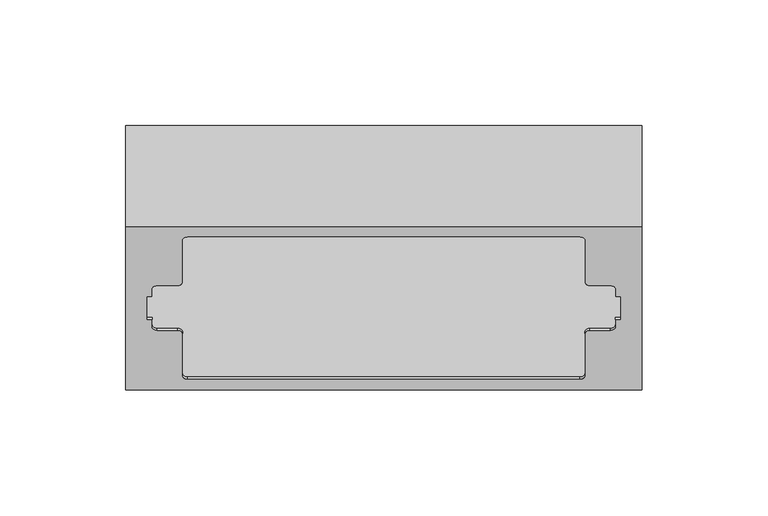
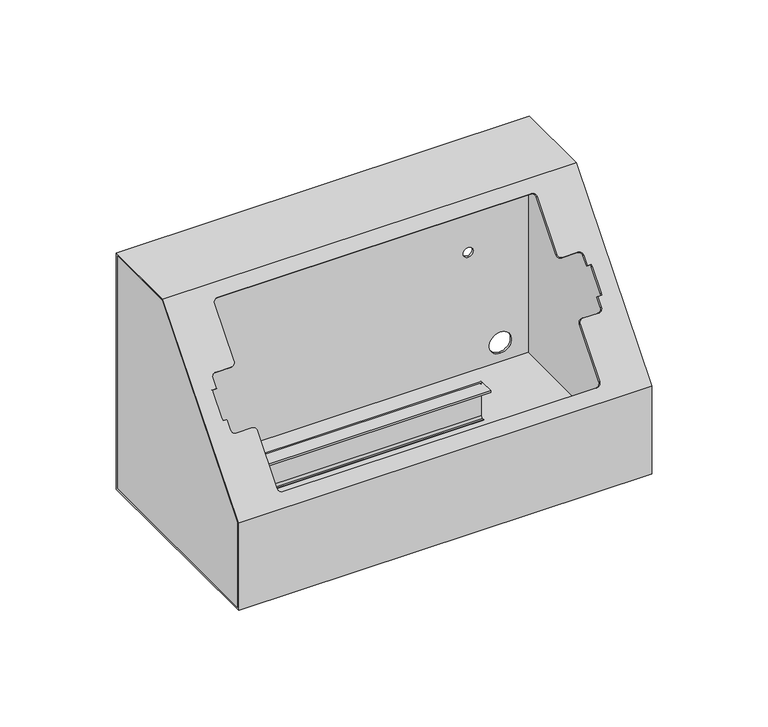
"""IFC4 building model written with IfcOpenShell, lengths in millimetres: proxy geometry, FP_Корпус_Для_Встраивоемой_Панели_R18 : FP_Корпус_Для_Встраивоемой_Панели_R18."""

import ifcopenshell
import ifcopenshell.guid

model = None  # the IFC model being written
_history = None  # IfcOwnerHistory: only IFC2X3 demands one
_inside = {}  # id of a spatial element -> (the spatial element, [elements in it])
_under = {}  # id of a project, library or spatial element -> (it, [spatial elements below it])
_declared = {}  # id of a project -> (the project, [libraries it declares])
_typed = {}  # id of a type object -> (the type object, [elements of that type])
_made_of = {}  # id of a material, layer set ... -> (it, [elements and type objects made of it])


def new_model(schema):
    """Start an empty IFC model of exactly this schema.

    Asked for "IFC4X3", IfcOpenShell would pick the latest addendum, in which some entities
    have other attributes; the version numbers below select the first issue.
    IFC2X3 requires an IfcOwnerHistory on every rooted entity: one is made here for all.
    """
    global model, _history
    if schema == "IFC4X3":
        model = ifcopenshell.file(schema_version=(4, 3, 0, 0))
    else:
        model = ifcopenshell.file(schema=schema)
    _inside.clear()
    _under.clear()
    _declared.clear()
    _typed.clear()
    _made_of.clear()
    _history = None
    if model.schema == "IFC2X3":
        org = make("IfcOrganization", Name="unknown")
        user = make(
            "IfcPersonAndOrganization",
            ThePerson=make("IfcPerson", FamilyName="unknown"),
            TheOrganization=org,
        )
        app = make(
            "IfcApplication",
            ApplicationDeveloper=org,
            Version="unknown",
            ApplicationFullName="unknown",
            ApplicationIdentifier="unknown",
        )
        _history = make(
            "IfcOwnerHistory",
            OwningUser=user,
            OwningApplication=app,
            ChangeAction="ADDED",
            CreationDate=0,
        )
    return model


def make(cls, **values):
    """One entity of the class cls with the attributes given. An attribute that is None is left unset."""
    return model.create_entity(
        cls, **{name: value for name, value in values.items() if value is not None}
    )


def rooted(cls, **values):
    """An entity with a GlobalId (a new one), such as an element, a storey or a relation."""
    return make(cls, GlobalId=ifcopenshell.guid.new(), OwnerHistory=_history, **values)


def si_unit(unit_type, name, prefix=None):
    """IfcSIUnit, for example si_unit("LENGTHUNIT", "METRE", prefix="MILLI")."""
    return make("IfcSIUnit", UnitType=unit_type, Prefix=prefix, Name=name)


def assignment(units):
    """IfcUnitAssignment: the units of a project."""
    return None if units is None else make("IfcUnitAssignment", Units=units)


def point(xyz):
    """IfcCartesianPoint."""
    return None if xyz is None else make("IfcCartesianPoint", Coordinates=xyz)


def direction(xyz):
    """IfcDirection."""
    return None if xyz is None else make("IfcDirection", DirectionRatios=xyz)


def frame(location, z_axis=None, x_axis=None):
    """IfcAxis2Placement3D, a coordinate frame: its origin and axes. An axis left out is left unset."""
    return make(
        "IfcAxis2Placement3D",
        Location=point(location),
        Axis=direction(z_axis),
        RefDirection=direction(x_axis),
    )


def frame_2d(location, x_axis=None):
    """IfcAxis2Placement2D, a coordinate frame in the plane: its origin and x axis."""
    return make(
        "IfcAxis2Placement2D", Location=point(location), RefDirection=direction(x_axis)
    )


def origin():
    """The frame at (0, 0, 0) with its axes left unset."""
    return frame((0.0, 0.0, 0.0))


def place(relative_to, where):
    """IfcLocalPlacement: puts the frame where relative to a parent placement (None: the world)."""
    return make(
        "IfcLocalPlacement", PlacementRelTo=relative_to, RelativePlacement=where
    )


def context(
    kind, dimensions, precision=None, world=None, true_north=None, identifier=None
):
    """IfcGeometricRepresentationContext, for example the 3D "Model" context."""
    return make(
        "IfcGeometricRepresentationContext",
        ContextIdentifier=identifier,
        ContextType=kind,
        CoordinateSpaceDimension=dimensions,
        Precision=precision,
        WorldCoordinateSystem=world,
        TrueNorth=true_north,
    )


def project(units=None, contexts=None):
    """IfcProject with its units and contexts."""
    return rooted(
        "IfcProject",
        Name="project",
        RepresentationContexts=contexts,
        UnitsInContext=assignment(units),
    )


def spatial(cls, under=None, at=None, **own):
    """A site, building, storey or space (cls), placed at a placement, below another one or the project."""
    s = rooted(cls, ObjectPlacement=at, **own)
    if under is not None:
        _under.setdefault(under.id(), (under, []))[1].append(s)
    return s


def polyline(points):
    """IfcPolyline through the points."""
    return make("IfcPolyline", Points=[point(p) for p in points])


def circle_curve(where, radius):
    """IfcCircle in the frame where."""
    return make("IfcCircle", Position=where, Radius=radius)


def ellipse_curve(where, semi_axis1, semi_axis2):
    """IfcEllipse in the frame where."""
    return make(
        "IfcEllipse", Position=where, SemiAxis1=semi_axis1, SemiAxis2=semi_axis2
    )


def trimmed(basis, trim1, trim2, sense, master):
    """IfcTrimmedCurve: the piece of a basis curve between two trims."""
    return make(
        "IfcTrimmedCurve",
        BasisCurve=basis,
        Trim1=trim1,
        Trim2=trim2,
        SenseAgreement=sense,
        MasterRepresentation=master,
    )


def segment(curve, same_sense, transition):
    """IfcCompositeCurveSegment."""
    return make(
        "IfcCompositeCurveSegment",
        Transition=transition,
        SameSense=same_sense,
        ParentCurve=curve,
    )


def composite_curve(segments, self_intersect=None):
    """IfcCompositeCurve: segments joined end to end."""
    return make("IfcCompositeCurve", Segments=segments, SelfIntersect=self_intersect)


def outline(outer, holes=None, kind="AREA"):
    """IfcArbitraryClosedProfileDef: a profile drawn as a closed curve; with holes, ...WithVoids."""
    if holes is None:
        return make("IfcArbitraryClosedProfileDef", ProfileType=kind, OuterCurve=outer)
    return make(
        "IfcArbitraryProfileDefWithVoids",
        ProfileType=kind,
        OuterCurve=outer,
        InnerCurves=holes,
    )


def extrude(swept, where, along, depth):
    """IfcExtrudedAreaSolid: the profile swept, set in the frame where, extruded along a direction by depth."""
    return make(
        "IfcExtrudedAreaSolid",
        SweptArea=swept,
        Position=where,
        ExtrudedDirection=direction(along),
        Depth=depth,
    )


def shape(context_of_items, identifier, shape_type, items):
    """IfcShapeRepresentation: the items that make up one representation, for example the "Body"."""
    return make(
        "IfcShapeRepresentation",
        ContextOfItems=context_of_items,
        RepresentationIdentifier=identifier,
        RepresentationType=shape_type,
        Items=items,
    )


def source(mapping_origin, context_of_items, identifier, shape_type, items):
    """IfcRepresentationMap: a shape defined once, which mapped items show again and again."""
    return make(
        "IfcRepresentationMap",
        MappingOrigin=mapping_origin,
        MappedRepresentation=shape(context_of_items, identifier, shape_type, items),
    )


def transform(
    local_origin,
    x_axis=None,
    y_axis=None,
    z_axis=None,
    scale=None,
    scale2=None,
    scale3=None,
    uniform=True,
):
    """IfcCartesianTransformationOperator3D, or its non-uniform kind. x_axis, y_axis, z_axis: its Axis1, 2, 3."""
    if uniform:
        return make(
            "IfcCartesianTransformationOperator3D",
            Axis1=direction(x_axis),
            Axis2=direction(y_axis),
            LocalOrigin=point(local_origin),
            Scale=scale,
            Axis3=direction(z_axis),
        )
    return make(
        "IfcCartesianTransformationOperator3DnonUniform",
        Axis1=direction(x_axis),
        Axis2=direction(y_axis),
        LocalOrigin=point(local_origin),
        Scale=scale,
        Axis3=direction(z_axis),
        Scale2=scale2,
        Scale3=scale3,
    )


def mapped(mapping_source, mapping_target):
    """IfcMappedItem: shows the shape of a source again, moved by a transform."""
    return make(
        "IfcMappedItem", MappingSource=mapping_source, MappingTarget=mapping_target
    )


def made_of(thing, what):
    """Note that an element or type object is made of a material, layer set ...; save() writes the relation."""
    if what is not None:
        _made_of.setdefault(what.id(), (what, []))[1].append(thing)
    return thing


def element(
    cls,
    number,
    at=None,
    inside=None,
    cuts=None,
    type_object=None,
    material=None,
    context=None,
    identifier="Body",
    shape_type=None,
    held_by="IfcProductDefinitionShape",
    body=None,
    shapes=None,
    **own,
):
    """One element of the class cls, such as IfcWall. Its Tag is "e" and its number.

    at: its placement. inside: the storey or other place that contains it. cuts: it is an
    opening in that element (IfcRelVoidsElement). A single representation is given by context,
    identifier, shape_type and body (its items); several are given by shapes. held_by: the class
    of the entity that holds the representations. save() writes the other relations.
    """
    e = rooted(cls, Tag="e%d" % number, ObjectPlacement=at, **own)
    if body is not None:
        shapes = [shape(context, identifier, shape_type, body)]
    if shapes is not None:
        e.Representation = make(held_by, Representations=shapes)
    if inside is not None:
        _inside.setdefault(inside.id(), (inside, []))[1].append(e)
    if cuts is not None:
        rooted(
            "IfcRelVoidsElement", RelatingBuildingElement=cuts, RelatedOpeningElement=e
        )
    if type_object is not None:
        _typed.setdefault(type_object.id(), (type_object, []))[1].append(e)
    return made_of(e, material)


def aggregate(whole, parts):
    """IfcRelAggregates: a whole, such as a stair, and the parts it consists of."""
    return rooted("IfcRelAggregates", RelatingObject=whole, RelatedObjects=parts)


def save(model, path):
    """Write the relations noted so far, then the file.

    IfcRelAggregates (storeys below a building ...), IfcRelContainedInSpatialStructure (elements
    in a storey), IfcRelDefinesByType, IfcRelAssociatesMaterial and IfcRelDeclares: one each for
    every whole, place, type object, material and project.
    """
    for whole, parts in _under.values():
        aggregate(whole, parts)
    for where, things in _inside.values():
        rooted(
            "IfcRelContainedInSpatialStructure",
            RelatedElements=things,
            RelatingStructure=where,
        )
    for kind, things in _typed.values():
        rooted("IfcRelDefinesByType", RelatedObjects=things, RelatingType=kind)
    for what, things in _made_of.values():
        rooted("IfcRelAssociatesMaterial", RelatedObjects=things, RelatingMaterial=what)
    for by, libraries in _declared.values():
        rooted("IfcRelDeclares", RelatingContext=by, RelatedDefinitions=libraries)
    model.write(path)


def plane_surface(at):
    """IfcPlane: the flat surface through the origin of the frame at, square to its z axis."""
    return make("IfcPlane", Position=at)


def revolved_surface(curve, axis_point, axis_direction):
    """IfcSurfaceOfRevolution: the curve turned about the line through axis_point along axis_direction."""
    return make(
        "IfcSurfaceOfRevolution",
        SweptCurve=make("IfcArbitraryOpenProfileDef", ProfileType="CURVE", Curve=curve),
        AxisPosition=make("IfcAxis1Placement", Location=point(axis_point), Axis=direction(axis_direction)),
    )


def extruded_surface(curve, direction_of_extrusion, depth):
    """IfcSurfaceOfLinearExtrusion: the curve pushed along a direction by depth."""
    return make(
        "IfcSurfaceOfLinearExtrusion",
        SweptCurve=make("IfcArbitraryOpenProfileDef", ProfileType="CURVE", Curve=curve),
        ExtrudedDirection=direction(direction_of_extrusion),
        Depth=depth,
    )


def advanced_brep(points, edges, surfaces, faces):
    """IfcAdvancedBrep: a solid bounded by faces that lie on surfaces and meet in shared edges.

    An edge is (start, end): straight between two places in points (the first is 0);
    or (start, end, curve); or (start, end, curve, False) where it runs against its curve.
    A face is (place in surfaces, loops), or (place, loops, False) where it looks against
    its surface's normal. A loop lists edges by number (the first is 1), with a minus sign
    where the edge is run from its end to its start. The first loop is the outer one.
    """
    corners = [point(p) for p in points]
    vertices = [make("IfcVertexPoint", VertexGeometry=c) for c in corners]
    made = []
    for start, end, *more in edges:
        made.append(
            make(
                "IfcEdgeCurve",
                EdgeStart=vertices[start],
                EdgeEnd=vertices[end],
                EdgeGeometry=more[0] if more else make("IfcPolyline", Points=[corners[start], corners[end]]),
                SameSense=more[1] if len(more) > 1 else True,
            )
        )
    hull = []
    for where, loops, *sense in faces:
        bounds = []
        for j, loop in enumerate(loops):
            ring = [make("IfcOrientedEdge", EdgeElement=made[abs(k) - 1], Orientation=k > 0) for k in loop]
            bounds.append(
                make(
                    "IfcFaceOuterBound" if j == 0 else "IfcFaceBound",
                    Bound=make("IfcEdgeLoop", EdgeList=ring),
                    Orientation=True,
                )
            )
        hull.append(make("IfcAdvancedFace", Bounds=bounds, FaceSurface=surfaces[where], SameSense=sense[0] if sense else True))
    return make("IfcAdvancedBrep", Outer=make("IfcClosedShell", CfsFaces=hull))


def mechanical_equipment_c5705cf6(model_context):
    return source(origin(), model_context, "Body", "SolidModel", [
        extrude(outline(polyline([(-104.0, 45.6379501), (-39.5316251, 123.0), (-1.0, 123.0), (-1.0, 1.0), (-104.0, 1.0), (-104.0, 45.6379501)])), frame((101.5, 0.0, 0.0), z_axis=(1.0, 0.0, 0.0), x_axis=(0.0, 1.0, 0.0)), (0.0, 0.0, 1.0), 1.0),
        extrude(outline(polyline([(-104.0, 45.6379501), (-39.5316251, 123.0), (-1.0, 123.0), (-1.0, 1.0), (-104.0, 1.0), (-104.0, 45.6379501)])), frame((-102.5, 0.0, 0.0), z_axis=(1.0, 0.0, 0.0), x_axis=(0.0, 1.0, 0.0)), (0.0, 0.0, 1.0), 1.0),
        extrude(outline(composite_curve([segment(trimmed(circle_curve(frame_2d((-33.9786589, 18.0213411)), 0.9786589), [point((-33.0, 18.0213411))], [point((-33.9786589, 19.0))], True, "CARTESIAN"), True, "CONTINUOUS"), segment(polyline([(-33.9786589, 19.0), (-41.0, 19.0), (-41.0, 20.0), (-33.9531425, 20.0)]), True, "CONTINUOUS"), segment(trimmed(circle_curve(frame_2d((-33.9531425, 18.0468575)), 1.9531425), [point((-33.9531425, 20.0))], [point((-32.0, 18.0468575))], False, "CARTESIAN"), True, "CONTINUOUS"), segment(polyline([(-32.0, 18.0468575), (-32.0, 2.004496)]), True, "CONTINUOUS"), segment(trimmed(circle_curve(frame_2d((-34.004496, 2.004496)), 2.004496), [point((-32.0, 2.004496))], [point((-34.004496, 0.0))], False, "CARTESIAN"), True, "CONTINUOUS"), segment(polyline([(-34.004496, 0.0), (-35.0, 0.0), (-35.0, 1.0), (-34.0045154, 1.0)]), True, "CONTINUOUS"), segment(trimmed(circle_curve(frame_2d((-34.0045154, 2.0045154)), 1.0045154), [point((-34.0045154, 1.0))], [point((-33.0, 2.0045154))], True, "CARTESIAN"), True, "CONTINUOUS"), segment(polyline([(-33.0, 2.0045154), (-33.0, 18.0213411)]), True, "CONTINUOUS")], self_intersect=False)), frame((-59.5, 0.0, 0.0), z_axis=(1.0, 0.0, 0.0), x_axis=(0.0, 1.0, 0.0)), (0.0, 0.0, 1.0), 119.0),
        extrude(outline(composite_curve([segment(polyline([(-11.0213411, 103.0), (-2.0045154, 103.0)]), True, "CONTINUOUS"), segment(trimmed(circle_curve(frame_2d((-2.0045154, 104.0045154)), 1.0045154), [point((-2.0045154, 103.0))], [point((-1.0, 104.0045154))], True, "CARTESIAN"), True, "CONTINUOUS"), segment(polyline([(-1.0, 104.0045154), (-1.0, 107.4908802), (0.0, 107.4908802), (0.0, 104.004496)]), True, "CONTINUOUS"), segment(trimmed(circle_curve(frame_2d((-2.004496, 104.004496)), 2.004496), [point((0.0, 104.004496))], [point((-2.004496, 102.0))], False, "CARTESIAN"), True, "CONTINUOUS"), segment(polyline([(-2.004496, 102.0), (-11.0468575, 102.0)]), True, "CONTINUOUS"), segment(trimmed(circle_curve(frame_2d((-11.0468575, 103.9531425)), 1.9531425), [point((-11.0468575, 102.0))], [point((-13.0, 103.9531425))], False, "CARTESIAN"), True, "CONTINUOUS"), segment(polyline([(-13.0, 103.9531425), (-13.0, 111.0), (-12.0, 111.0), (-12.0, 103.9786589)]), True, "CONTINUOUS"), segment(trimmed(circle_curve(frame_2d((-11.0213411, 103.9786589)), 0.9786589), [point((-12.0, 103.9786589))], [point((-11.0213411, 103.0))], True, "CARTESIAN"), True, "CONTINUOUS")], self_intersect=False)), frame((-59.5, 0.0, 0.0), z_axis=(1.0, 0.0, 0.0), x_axis=(0.0, 1.0, 0.0)), (0.0, 0.0, 1.0), 119.0),
        advanced_brep(
        [(-102.5, -1.0, 123.0), (102.5, -1.0, 123.0), (102.5, -39.5316251, 123.0), (-102.5, -39.5316251, 123.0), (102.5, 0.0, 124.0), (-102.5, 0.0, 124.0), (-102.5, -40.0, 124.0), (102.5, -40.0, 124.0), (102.5, -104.0, 45.6379501), (-102.5, -104.0, 45.6379501), (78.0, -43.5267841, 118.2058091), (-78.0, -43.5267841, 118.2058091), (-80.0, -44.8071456, 116.6693754), (-80.0, -61.6118893, 96.5036829), (-82.0, -62.8922507, 94.9672492), (-90.0, -62.8922507, 94.9672492), (-92.0, -64.1726121, 93.4308155), (-92.0, -67.2134705, 89.7817854), (-94.0, -67.2134705, 89.7817854), (-94.0, -67.8536512, 89.0135686), (-94.0, -75.5358198, 79.7949663), (-94.0, -76.1760005, 79.0267494), (-92.0, -76.1760005, 79.0267494), (-92.0, -79.2168589, 75.3777194), (-90.0, -80.4972203, 73.8412857), (-82.0, -80.4972203, 73.8412857), (-80.0, -81.7775818, 72.3048519), (-80.0, -98.5823255, 52.1391595), (-78.0, -99.8626869, 50.6027257), (78.0, -99.8626869, 50.6027257), (80.0, -98.5823255, 52.1391595), (80.0, -81.7775818, 72.3048519), (82.0, -80.4972203, 73.8412857), (90.0, -80.4972203, 73.8412857), (92.0, -79.2168589, 75.3777194), (92.0, -76.1760005, 79.0267494), (94.0, -76.1760005, 79.0267494), (94.0, -75.5358198, 79.7949663), (94.0, -67.8536512, 89.0135686), (94.0, -67.2134705, 89.7817854), (92.0, -67.2134705, 89.7817854), (92.0, -64.1726121, 93.4308155), (90.0, -62.8922507, 94.9672492), (82.0, -62.8922507, 94.9672492), (80.0, -61.6118893, 96.5036829), (80.0, -44.8071456, 116.6693754), (-102.5, -105.0, 46.0), (102.5, -105.0, 46.0), (-78.0, -44.2950054, 118.8459935), (78.0, -44.2950054, 118.8459935), (80.0, -45.5753668, 117.3095598), (80.0, -62.3801106, 97.1438673), (82.0, -63.660472, 95.6074336), (90.0, -63.660472, 95.6074336), (92.0, -64.9408334, 94.0709999), (92.0, -67.9816918, 90.4219698), (94.0, -67.9816918, 90.4219698), (94.0, -68.6218725, 89.653753), (94.0, -76.3040411, 80.4351507), (94.0, -76.9442218, 79.6669338), (92.0, -76.9442218, 79.6669338), (92.0, -79.9850802, 76.0179038), (90.0, -81.2654416, 74.4814701), (82.0, -81.2654416, 74.4814701), (80.0, -82.5458031, 72.9450363), (80.0, -99.3505468, 52.7793439), (78.0, -100.6309082, 51.2429101), (-78.0, -100.6309082, 51.2429101), (-80.0, -99.3505468, 52.7793439), (-80.0, -82.5458031, 72.9450363), (-82.0, -81.2654416, 74.4814701), (-90.0, -81.2654416, 74.4814701), (-92.0, -79.9850802, 76.0179038), (-92.0, -76.9442218, 79.6669338), (-94.0, -76.9442218, 79.6669338), (-94.0, -76.3040411, 80.4351507), (-94.0, -68.6218725, 89.653753), (-94.0, -67.9816918, 90.4219698), (-92.0, -67.9816918, 90.4219698), (-92.0, -64.9408334, 94.0709999), (-90.0, -63.660472, 95.6074336), (-82.0, -63.660472, 95.6074336), (-80.0, -62.3801106, 97.1438673), (-80.0, -45.5753668, 117.3095598), (102.5, -104.0, 1.0), (-102.5, -104.0, 1.0), (-102.5, -105.0, 0.0), (102.5, -105.0, 0.0), (102.5, -1.0, 1.0), (-102.5, -1.0, 1.0), (-102.5, 0.0, 0.0), (102.5, 0.0, 0.0), (87.5200718, -1.0, 5.4820619), (87.5200718, -1.0, 16.4820619), (-87.5200718, -1.0, 5.4820619), (-87.5200718, -1.0, 16.4820619), (87.5200718, -1.0, 107.5179381), (87.5200718, -1.0, 118.5179381), (-87.5200718, -1.0, 107.5179381), (-87.5200718, -1.0, 118.5179381), (71.5049562, -1.0, 61.501918), (71.5049562, -1.0, 66.501918), (-71.5049562, -1.0, 61.501918), (-71.5049562, -1.0, 66.501918), (87.5200718, 0.0, 16.4820619), (87.5200718, 0.0, 5.4820619), (-87.5200718, 0.0, 16.4820619), (-87.5200718, 0.0, 5.4820619), (87.5200718, 0.0, 118.5179381), (87.5200718, 0.0, 107.5179381), (-87.5200718, 0.0, 118.5179381), (-87.5200718, 0.0, 107.5179381), (71.5049562, 0.0, 66.501918), (71.5049562, 0.0, 61.501918), (-71.5049562, 0.0, 66.501918), (-71.5049562, 0.0, 61.501918)],
        [
            (0, 1),
            (1, 2),
            (2, 3),
            (3, 0),
            (4, 5),
            (5, 6),
            (6, 7),
            (7, 4),
            (2, 8),
            (8, 9),
            (9, 3),
            (10, 11),
            (11, 12, ellipse_curve(frame((-78.0, -44.8071456, 116.6693754), z_axis=(0.0, -0.768221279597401, 0.6401843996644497), x_axis=(-1.0, 0.0, 0.0)), 2.0, 1.9999885)),
            (12, 13),
            (13, 14, ellipse_curve(frame((-82.0, -61.6118893, 96.5036829), z_axis=(0.0, 0.768221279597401, -0.6401843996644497), x_axis=(1.0, 0.0, 0.0)), 2.0, 1.9999885)),
            (14, 15),
            (15, 16, ellipse_curve(frame((-90.0, -64.1726121, 93.4308155), z_axis=(0.0, -0.768221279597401, 0.6401843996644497), x_axis=(-1.0, 0.0, 0.0)), 2.0, 1.9999885)),
            (16, 17),
            (17, 18),
            (18, 19),
            (19, 20),
            (20, 21),
            (21, 22),
            (22, 23),
            (23, 24, ellipse_curve(frame((-90.0, -79.2168589, 75.3777194), z_axis=(0.0, -0.768221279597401, 0.6401843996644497), x_axis=(-1.0, -3.4748197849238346e-12, -4.169783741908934e-12)), 2.0, 1.9999885)),
            (24, 25),
            (25, 26, ellipse_curve(frame((-82.0, -81.7775818, 72.3048519), z_axis=(0.0, 0.768221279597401, -0.6401843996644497), x_axis=(1.0, 0.0, 0.0)), 2.0, 1.9999885)),
            (26, 27),
            (27, 28, ellipse_curve(frame((-78.0, -98.5823255, 52.1391595), z_axis=(0.0, -0.768221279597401, 0.6401843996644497), x_axis=(-1.0, 0.0, 0.0)), 2.0, 1.9999885)),
            (28, 29),
            (29, 30, ellipse_curve(frame((78.0, -98.5823255, 52.1391595), z_axis=(0.0, -0.768221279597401, 0.6401843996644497), x_axis=(1.0, 3.469339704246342e-12, 4.163207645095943e-12)), 2.0, 1.9999885)),
            (30, 31),
            (31, 32, ellipse_curve(frame((82.0, -81.7775818, 72.3048519), z_axis=(0.0, 0.768221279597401, -0.6401843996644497), x_axis=(-1.0, -3.4731139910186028e-12, -4.1677367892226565e-12)), 2.0, 1.9999885)),
            (32, 33),
            (33, 34, ellipse_curve(frame((90.0, -79.2168589, 75.3777194), z_axis=(0.0, -0.768221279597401, 0.6401843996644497), x_axis=(1.0, 0.0, 0.0)), 2.0, 1.9999885)),
            (34, 35),
            (35, 36),
            (36, 37),
            (37, 38),
            (38, 39),
            (39, 40),
            (40, 41),
            (41, 42, ellipse_curve(frame((90.0, -64.1726121, 93.4308155), z_axis=(0.0, -0.768221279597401, 0.6401843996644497), x_axis=(1.0, -6.950502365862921e-12, -8.340602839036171e-12)), 2.0, 1.9999885)),
            (42, 43),
            (43, 44, ellipse_curve(frame((82.0, -61.6118893, 96.5036829), z_axis=(0.0, 0.768221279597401, -0.6401843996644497), x_axis=(-1.0, -3.4748197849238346e-12, -4.169783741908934e-12)), 2.0, 1.9999885)),
            (44, 45),
            (45, 10, ellipse_curve(frame((78.0, -44.8071456, 116.6693754), z_axis=(0.0, -0.768221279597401, 0.6401843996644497), x_axis=(1.0, 3.470619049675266e-12, 4.1647428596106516e-12)), 2.0, 1.9999885)),
            (6, 46),
            (46, 47),
            (47, 7),
            (48, 49),
            (49, 50, ellipse_curve(frame((78.0, -45.5753668, 117.3095598), z_axis=(0.0, 0.768221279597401, -0.6401843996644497), x_axis=(1.0, 3.470619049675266e-12, 4.1647428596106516e-12)), 2.0, 1.9999885)),
            (50, 51),
            (51, 52, ellipse_curve(frame((82.0, -62.3801106, 97.1438673), z_axis=(0.0, -0.768221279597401, 0.6401843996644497), x_axis=(-1.0, -3.4748197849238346e-12, -4.169783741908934e-12)), 2.0, 1.9999885)),
            (52, 53),
            (53, 54, ellipse_curve(frame((90.0, -64.9408334, 94.0709999), z_axis=(0.0, 0.768221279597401, -0.6401843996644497), x_axis=(1.0, -6.950502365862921e-12, -8.340602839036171e-12)), 2.0, 1.9999885)),
            (54, 55),
            (55, 56),
            (56, 57),
            (57, 58),
            (58, 59),
            (59, 60),
            (60, 61),
            (61, 62, ellipse_curve(frame((90.0, -79.9850802, 76.0179038), z_axis=(0.0, 0.768221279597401, -0.6401843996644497), x_axis=(1.0, 0.0, 0.0)), 2.0, 1.9999885)),
            (62, 63),
            (63, 64, ellipse_curve(frame((82.0, -82.5458031, 72.9450363), z_axis=(0.0, -0.768221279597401, 0.6401843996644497), x_axis=(-1.0, -3.4731139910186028e-12, -4.1677367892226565e-12)), 2.0, 1.9999885)),
            (64, 65),
            (65, 66, ellipse_curve(frame((78.0, -99.3505468, 52.7793439), z_axis=(0.0, 0.768221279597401, -0.6401843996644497), x_axis=(1.0, 3.469339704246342e-12, 4.163207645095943e-12)), 2.0, 1.9999885)),
            (66, 67),
            (67, 68, ellipse_curve(frame((-78.0, -99.3505468, 52.7793439), z_axis=(0.0, 0.768221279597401, -0.6401843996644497), x_axis=(-1.0, 0.0, 0.0)), 2.0, 1.9999885)),
            (68, 69),
            (69, 70, ellipse_curve(frame((-82.0, -82.5458031, 72.9450363), z_axis=(0.0, -0.768221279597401, 0.6401843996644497), x_axis=(1.0, 0.0, 0.0)), 2.0, 1.9999885)),
            (70, 71),
            (71, 72, ellipse_curve(frame((-90.0, -79.9850802, 76.0179038), z_axis=(0.0, 0.768221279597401, -0.6401843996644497), x_axis=(-1.0, -3.4748197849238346e-12, -4.169783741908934e-12)), 2.0, 1.9999885)),
            (72, 73),
            (73, 74),
            (74, 75),
            (75, 76),
            (76, 77),
            (77, 78),
            (78, 79),
            (79, 80, ellipse_curve(frame((-90.0, -64.9408334, 94.0709999), z_axis=(0.0, 0.768221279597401, -0.6401843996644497), x_axis=(-1.0, 0.0, 0.0)), 2.0, 1.9999885)),
            (80, 81),
            (81, 82, ellipse_curve(frame((-82.0, -62.3801106, 97.1438673), z_axis=(0.0, -0.768221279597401, 0.6401843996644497), x_axis=(1.0, 0.0, 0.0)), 2.0, 1.9999885)),
            (82, 83),
            (83, 48, ellipse_curve(frame((-78.0, -45.5753668, 117.3095598), z_axis=(0.0, 0.768221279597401, -0.6401843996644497), x_axis=(-1.0, 0.0, 0.0)), 2.0, 1.9999885)),
            (8, 84),
            (84, 85),
            (85, 9),
            (46, 86),
            (86, 87),
            (87, 47),
            (84, 88),
            (88, 89),
            (89, 85),
            (86, 90),
            (90, 91),
            (91, 87),
            (91, 4),
            (1, 88),
            (0, 89),
            (92, 93, circle_curve(frame((87.5200718, -1.0, 10.9820619), z_axis=(0.0, 1.0, 0.0), x_axis=(0.0, 0.0, -1.0)), 5.5)),
            (93, 92, circle_curve(frame((87.5200718, -1.0, 10.9820619), z_axis=(0.0, 1.0, 0.0), x_axis=(0.0, 0.0, -1.0)), 5.5)),
            (94, 95, circle_curve(frame((-87.5200718, -1.0, 10.9820619), z_axis=(0.0, 1.0, 0.0), x_axis=(0.0, 0.0, -1.0)), 5.5)),
            (95, 94, circle_curve(frame((-87.5200718, -1.0, 10.9820619), z_axis=(0.0, 1.0, 0.0), x_axis=(0.0, 0.0, -1.0)), 5.5)),
            (96, 97, circle_curve(frame((87.5200718, -1.0, 113.0179381), z_axis=(0.0, 1.0, 0.0), x_axis=(0.0, 0.0, -1.0)), 5.5)),
            (97, 96, circle_curve(frame((87.5200718, -1.0, 113.0179381), z_axis=(0.0, 1.0, 0.0), x_axis=(0.0, 0.0, -1.0)), 5.5)),
            (98, 99, circle_curve(frame((-87.5200718, -1.0, 113.0179381), z_axis=(0.0, 1.0, 0.0), x_axis=(0.0, 0.0, -1.0)), 5.5)),
            (99, 98, circle_curve(frame((-87.5200718, -1.0, 113.0179381), z_axis=(0.0, 1.0, 0.0), x_axis=(0.0, 0.0, -1.0)), 5.5)),
            (100, 101, circle_curve(frame((71.5049562, -1.0, 64.001918), z_axis=(0.0, 1.0, 0.0), x_axis=(0.0, 0.0, -1.0)), 2.5)),
            (101, 100, circle_curve(frame((71.5049562, -1.0, 64.001918), z_axis=(0.0, 1.0, 0.0), x_axis=(0.0, 0.0, -1.0)), 2.5)),
            (102, 103, circle_curve(frame((-71.5049562, -1.0, 64.001918), z_axis=(0.0, 1.0, 0.0), x_axis=(0.0, 0.0, -1.0)), 2.5)),
            (103, 102, circle_curve(frame((-71.5049562, -1.0, 64.001918), z_axis=(0.0, 1.0, 0.0), x_axis=(0.0, 0.0, -1.0)), 2.5)),
            (5, 90),
            (104, 105, circle_curve(frame((87.5200718, 0.0, 10.9820619), z_axis=(0.0, -1.0, 0.0), x_axis=(0.0, 0.0, -1.0)), 5.5)),
            (105, 104, circle_curve(frame((87.5200718, 0.0, 10.9820619), z_axis=(0.0, -1.0, 0.0), x_axis=(0.0, 0.0, -1.0)), 5.5)),
            (106, 107, circle_curve(frame((-87.5200718, 0.0, 10.9820619), z_axis=(0.0, -1.0, 0.0), x_axis=(0.0, 0.0, -1.0)), 5.5)),
            (107, 106, circle_curve(frame((-87.5200718, 0.0, 10.9820619), z_axis=(0.0, -1.0, 0.0), x_axis=(0.0, 0.0, -1.0)), 5.5)),
            (108, 109, circle_curve(frame((87.5200718, 0.0, 113.0179381), z_axis=(0.0, -1.0, 0.0), x_axis=(0.0, 0.0, -1.0)), 5.5)),
            (109, 108, circle_curve(frame((87.5200718, 0.0, 113.0179381), z_axis=(0.0, -1.0, 0.0), x_axis=(0.0, 0.0, -1.0)), 5.5)),
            (110, 111, circle_curve(frame((-87.5200718, 0.0, 113.0179381), z_axis=(0.0, -1.0, 0.0), x_axis=(0.0, 0.0, -1.0)), 5.5)),
            (111, 110, circle_curve(frame((-87.5200718, 0.0, 113.0179381), z_axis=(0.0, -1.0, 0.0), x_axis=(0.0, 0.0, -1.0)), 5.5)),
            (112, 113, circle_curve(frame((71.5049562, 0.0, 64.001918), z_axis=(0.0, -1.0, 0.0), x_axis=(0.0, 0.0, -1.0)), 2.5)),
            (113, 112, circle_curve(frame((71.5049562, 0.0, 64.001918), z_axis=(0.0, -1.0, 0.0), x_axis=(0.0, 0.0, -1.0)), 2.5)),
            (114, 115, circle_curve(frame((-71.5049562, 0.0, 64.001918), z_axis=(0.0, -1.0, 0.0), x_axis=(0.0, 0.0, -1.0)), 2.5)),
            (115, 114, circle_curve(frame((-71.5049562, 0.0, 64.001918), z_axis=(0.0, -1.0, 0.0), x_axis=(0.0, 0.0, -1.0)), 2.5)),
            (10, 49),
            (48, 11),
            (45, 50),
            (44, 51),
            (43, 52),
            (42, 53),
            (41, 54),
            (40, 55),
            (39, 56),
            (38, 57),
            (37, 58),
            (36, 59),
            (35, 60),
            (34, 61),
            (33, 62),
            (32, 63),
            (31, 64),
            (30, 65),
            (29, 66),
            (28, 67),
            (27, 68),
            (26, 69),
            (25, 70),
            (24, 71),
            (23, 72),
            (22, 73),
            (21, 74),
            (20, 75),
            (19, 76),
            (18, 77),
            (17, 78),
            (16, 79),
            (15, 80),
            (14, 81),
            (13, 82),
            (12, 83),
            (92, 105),
            (104, 93),
            (94, 107),
            (106, 95),
            (96, 109),
            (108, 97),
            (98, 111),
            (110, 99),
            (100, 113),
            (112, 101),
            (102, 115),
            (114, 103),
        ],
        [
            plane_surface(frame((102.5, -1.0, 123.0), z_axis=(0.0, 0.0, -1.0), x_axis=(0.0, -1.0, 0.0))),
            plane_surface(frame((-102.5, 0.0, 124.0), z_axis=(0.0, 0.0, 1.0), x_axis=(0.0, -1.0, 0.0))),
            plane_surface(frame((102.5, -39.5316251, 123.0), z_axis=(0.0, 0.768221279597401, -0.6401843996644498), x_axis=(0.0, -0.6401843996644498, -0.768221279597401))),
            plane_surface(frame((-102.5, -40.0, 124.0), z_axis=(0.0, -0.768221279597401, 0.6401843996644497), x_axis=(0.0, -0.6401843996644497, -0.768221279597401))),
            plane_surface(frame((102.5, -104.0, 45.6379501), z_axis=(0.0, 1.0, 0.0), x_axis=(0.0, 0.0, -1.0))),
            plane_surface(frame((-102.5, -105.0, 46.0), z_axis=(0.0, -1.0, 0.0), x_axis=(0.0, 0.0, -1.0))),
            plane_surface(frame((102.5, -104.0, 1.0), z_axis=(0.0, 0.0, 1.0), x_axis=(0.0, 1.0, 0.0))),
            plane_surface(frame((-102.5, -105.0, 0.0), z_axis=(0.0, 0.0, -1.0), x_axis=(0.0, 1.0, 0.0))),
            plane_surface(frame((102.5, 0.0, 0.0), z_axis=(1.0, 0.0, 0.0), x_axis=(0.0, 0.0, 1.0))),
            plane_surface(frame((102.5, -1.0, 1.0), z_axis=(0.0, -1.0, 0.0), x_axis=(0.0, 0.0, 1.0))),
            plane_surface(frame((-102.5, -1.0, 1.0), z_axis=(-1.0, 0.0, 0.0), x_axis=(0.0, 0.0, 1.0))),
            plane_surface(frame((-102.5, 0.0, 0.0), z_axis=(0.0, 1.0, 0.0), x_axis=(0.0, 0.0, 1.0))),
            plane_surface(frame((-78.0, -43.5267841, 118.2058091), z_axis=(0.0, -0.6401843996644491, -0.7682212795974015), x_axis=(0.0, -0.7682212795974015, 0.6401843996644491))),
            extruded_surface(trimmed(ellipse_curve(frame((78.0, -45.5753668, 117.3095598), z_axis=(0.0, 0.768221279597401, -0.6401843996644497), x_axis=(1.0, 3.470619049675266e-12, 4.1647428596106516e-12)), 2.0, 1.9999885), [point((78.0, -44.2950054, 118.8459935))], [point((80.0, -45.5753668, 117.3095598))], True, "CARTESIAN"), (0.0, -0.7682213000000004, 0.6401843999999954), 1.0000000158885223),
            plane_surface(frame((80.0, -44.8071456, 116.6693754), z_axis=(-1.0, 0.0, 0.0), x_axis=(0.0, -0.7682212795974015, 0.6401843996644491))),
            extruded_surface(trimmed(ellipse_curve(frame((82.0, -62.3801106, 97.1438673), z_axis=(0.0, -0.768221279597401, 0.6401843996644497), x_axis=(-1.0, -3.4748197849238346e-12, -4.169783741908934e-12)), 2.0, 1.9999885), [point((80.0, -62.3801106, 97.1438673))], [point((82.0, -63.660472, 95.6074336))], True, "CARTESIAN"), (0.0, -0.7682211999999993, 0.6401844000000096), 0.9999999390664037),
            plane_surface(frame((82.0, -62.8922507, 94.9672492), z_axis=(0.0, -0.6401843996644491, -0.7682212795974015), x_axis=(0.0, -0.7682212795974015, 0.6401843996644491))),
            extruded_surface(trimmed(ellipse_curve(frame((90.0, -64.9408334, 94.0709999), z_axis=(0.0, 0.768221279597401, -0.6401843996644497), x_axis=(1.0, -6.950502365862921e-12, -8.340602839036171e-12)), 2.0, 1.9999885), [point((90.0, -63.660472, 95.6074336))], [point((92.0, -64.9408334, 94.0709999))], True, "CARTESIAN"), (0.0, -0.7682212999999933, 0.6401843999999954), 1.0000000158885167),
            plane_surface(frame((92.0, -64.1726121, 93.4308155), z_axis=(-1.0, 0.0, 0.0), x_axis=(0.0, -0.7682212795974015, 0.6401843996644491))),
            plane_surface(frame((92.0, -67.2134705, 89.7817854), z_axis=(0.0, -0.6401843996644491, -0.7682212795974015), x_axis=(0.0, -0.7682212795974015, 0.6401843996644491))),
            plane_surface(frame((94.0, -67.2134705, 89.7817854), z_axis=(-1.0, 0.0, 0.0), x_axis=(0.0, -0.7682212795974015, 0.6401843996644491))),
            plane_surface(frame((94.0, -67.8536512, 89.0135686), z_axis=(-1.0, 0.0, 0.0), x_axis=(0.0, -0.7682212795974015, 0.6401843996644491))),
            plane_surface(frame((94.0, -75.5358198, 79.7949663), z_axis=(-1.0, 0.0, 0.0), x_axis=(0.0, -0.7682212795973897, 0.6401843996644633))),
            plane_surface(frame((94.0, -76.1760005, 79.0267494), z_axis=(0.0, 0.6401843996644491, 0.7682212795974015), x_axis=(0.0, -0.7682212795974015, 0.6401843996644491))),
            plane_surface(frame((92.0, -76.1760005, 79.0267494), z_axis=(-1.0, 0.0, 0.0), x_axis=(0.0, -0.7682212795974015, 0.6401843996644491))),
            extruded_surface(trimmed(ellipse_curve(frame((90.0, -79.9850802, 76.0179038), z_axis=(0.0, 0.768221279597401, -0.6401843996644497), x_axis=(1.0, 0.0, 0.0)), 2.0, 1.9999885), [point((92.0, -79.9850802, 76.0179038))], [point((90.0, -81.2654416, 74.4814701))], True, "CARTESIAN"), (0.0, -0.7682213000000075, 0.6401843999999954), 1.0000000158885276),
            plane_surface(frame((90.0, -80.4972203, 73.8412857), z_axis=(0.0, 0.6401843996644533, 0.768221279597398), x_axis=(0.0, -0.768221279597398, 0.6401843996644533))),
            extruded_surface(trimmed(ellipse_curve(frame((82.0, -82.5458031, 72.9450363), z_axis=(0.0, -0.768221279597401, 0.6401843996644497), x_axis=(-1.0, -3.4731139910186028e-12, -4.1677367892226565e-12)), 2.0, 1.9999885), [point((82.0, -81.2654416, 74.4814701))], [point((80.0, -82.5458031, 72.9450363))], True, "CARTESIAN"), (0.0, -0.7682211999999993, 0.6401843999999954), 0.9999999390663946),
            plane_surface(frame((80.0, -81.7775818, 72.3048519), z_axis=(-1.0000000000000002, 0.0, 0.0), x_axis=(0.0, -0.768221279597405, 0.640184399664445))),
            extruded_surface(trimmed(ellipse_curve(frame((78.0, -99.3505468, 52.7793439), z_axis=(0.0, 0.768221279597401, -0.6401843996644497), x_axis=(1.0, 3.469339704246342e-12, 4.163207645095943e-12)), 2.0, 1.9999885), [point((80.0, -99.3505468, 52.7793439))], [point((78.0, -100.6309082, 51.2429101))], True, "CARTESIAN"), (0.0, -0.7682212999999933, 0.6401844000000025), 1.0000000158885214),
            plane_surface(frame((78.0, -99.8626869, 50.6027257), z_axis=(0.0, 0.640184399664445, 0.768221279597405), x_axis=(0.0, -0.768221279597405, 0.640184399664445))),
            extruded_surface(trimmed(ellipse_curve(frame((-78.0, -99.3505468, 52.7793439), z_axis=(0.0, 0.768221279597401, -0.6401843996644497), x_axis=(-1.0, 0.0, 0.0)), 2.0, 1.9999885), [point((-78.0, -100.6309082, 51.2429101))], [point((-80.0, -99.3505468, 52.7793439))], True, "CARTESIAN"), (0.0, -0.7682212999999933, 0.6401844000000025), 1.0000000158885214),
            plane_surface(frame((-80.0, -98.5823255, 52.1391595), z_axis=(1.0, 0.0, 0.0), x_axis=(0.0, -0.768221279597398, 0.6401843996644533))),
            extruded_surface(trimmed(ellipse_curve(frame((-82.0, -82.5458031, 72.9450363), z_axis=(0.0, -0.768221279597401, 0.6401843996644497), x_axis=(1.0, 0.0, 0.0)), 2.0, 1.9999885), [point((-80.0, -82.5458031, 72.9450363))], [point((-82.0, -81.2654416, 74.4814701))], True, "CARTESIAN"), (0.0, -0.7682211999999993, 0.6401843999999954), 0.9999999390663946),
            plane_surface(frame((-82.0, -80.4972203, 73.8412857), z_axis=(0.0, 0.6401843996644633, 0.7682212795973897), x_axis=(0.0, -0.7682212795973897, 0.6401843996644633))),
            extruded_surface(trimmed(ellipse_curve(frame((-90.0, -79.9850802, 76.0179038), z_axis=(0.0, 0.768221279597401, -0.6401843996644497), x_axis=(-1.0, -3.4748197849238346e-12, -4.169783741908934e-12)), 2.0, 1.9999885), [point((-90.0, -81.2654416, 74.4814701))], [point((-92.0, -79.9850802, 76.0179038))], True, "CARTESIAN"), (0.0, -0.7682213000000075, 0.6401843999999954), 1.0000000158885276),
            plane_surface(frame((-92.0, -79.2168589, 75.3777194), z_axis=(1.0000000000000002, 0.0, 0.0), x_axis=(0.0, -0.768221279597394, 0.6401843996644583))),
            plane_surface(frame((-92.0, -76.1760005, 79.0267494), z_axis=(0.0, 0.6401843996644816, 0.7682212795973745), x_axis=(0.0, -0.7682212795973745, 0.6401843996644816))),
            plane_surface(frame((-94.0, -76.1760005, 79.0267494), z_axis=(1.0000000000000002, 0.0, 0.0), x_axis=(0.0, -0.7682212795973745, 0.6401843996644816))),
            plane_surface(frame((-94.0, -75.5358198, 79.7949663), z_axis=(1.0000000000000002, 0.0, 0.0), x_axis=(0.0, -0.768221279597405, 0.640184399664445))),
            plane_surface(frame((-94.0, -67.8536512, 89.0135686), z_axis=(1.0, 0.0, 0.0), x_axis=(0.0, -0.7682212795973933, 0.6401843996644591))),
            plane_surface(frame((-94.0, -67.2134705, 89.7817854), z_axis=(0.0, -0.6401843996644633, -0.7682212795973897), x_axis=(0.0, -0.7682212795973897, 0.6401843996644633))),
            plane_surface(frame((-92.0, -67.2134705, 89.7817854), z_axis=(1.0, 0.0, 0.0), x_axis=(0.0, -0.7682212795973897, 0.6401843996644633))),
            extruded_surface(trimmed(ellipse_curve(frame((-90.0, -64.9408334, 94.0709999), z_axis=(0.0, 0.768221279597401, -0.6401843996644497), x_axis=(-1.0, 0.0, 0.0)), 2.0, 1.9999885), [point((-92.0, -64.9408334, 94.0709999))], [point((-90.0, -63.660472, 95.6074336))], True, "CARTESIAN"), (0.0, -0.7682212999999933, 0.6401843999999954), 1.0000000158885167),
            plane_surface(frame((-90.0, -62.8922507, 94.9672492), z_axis=(0.0, -0.6401843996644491, -0.7682212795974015), x_axis=(0.0, -0.7682212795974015, 0.6401843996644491))),
            extruded_surface(trimmed(ellipse_curve(frame((-82.0, -62.3801106, 97.1438673), z_axis=(0.0, -0.768221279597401, 0.6401843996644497), x_axis=(1.0, 0.0, 0.0)), 2.0, 1.9999885), [point((-82.0, -63.660472, 95.6074336))], [point((-80.0, -62.3801106, 97.1438673))], True, "CARTESIAN"), (0.0, -0.7682211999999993, 0.6401844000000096), 0.9999999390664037),
            plane_surface(frame((-80.0, -61.6118893, 96.5036829), z_axis=(1.0, 0.0, 0.0), x_axis=(0.0, -0.7682212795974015, 0.6401843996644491))),
            extruded_surface(trimmed(ellipse_curve(frame((-78.0, -45.5753668, 117.3095598), z_axis=(0.0, 0.768221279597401, -0.6401843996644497), x_axis=(-1.0, 0.0, 0.0)), 2.0, 1.9999885), [point((-80.0, -45.5753668, 117.3095598))], [point((-78.0, -44.2950054, 118.8459935))], True, "CARTESIAN"), (0.0, -0.7682213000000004, 0.6401843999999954), 1.0000000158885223),
            revolved_surface(polyline([(87.5200718, -1.0, 5.4820619), (87.5200718, 0.0, 5.4820619)]), (87.5200718, 0.0, 10.9820619), (0.0, -1.0, 0.0)),
            revolved_surface(polyline([(-87.5200718, -1.0, 5.4820619), (-87.5200718, 0.0, 5.4820619)]), (-87.5200718, 0.0, 10.9820619), (0.0, -1.0, 0.0)),
            revolved_surface(polyline([(87.5200718, -1.0, 107.5179381), (87.5200718, 0.0, 107.5179381)]), (87.5200718, 0.0, 113.0179381), (0.0, -1.0, 0.0)),
            revolved_surface(polyline([(-87.5200718, -1.0, 107.5179381), (-87.5200718, 0.0, 107.5179381)]), (-87.5200718, 0.0, 113.0179381), (0.0, -1.0, 0.0)),
            revolved_surface(polyline([(71.5049562, -1.0, 61.501918), (71.5049562, 0.0, 61.501918)]), (71.5049562, 0.0, 64.001918), (0.0, -1.0, 0.0)),
            revolved_surface(polyline([(-71.5049562, -1.0, 61.501918), (-71.5049562, 0.0, 61.501918)]), (-71.5049562, 0.0, 64.001918), (0.0, -1.0, 0.0)),
        ],
        [
            (0, [[1, 2, 3, 4]]),
            (1, [[5, 6, 7, 8]]),
            (2, [[-3, 9, 10, 11], [12, 13, 14, 15, 16, 17, 18, 19, 20, 21, 22, 23, 24, 25, 26, 27, 28, 29, 30, 31, 32, 33, 34, 35, 36, 37, 38, 39, 40, 41, 42, 43, 44, 45, 46, 47]]),
            (3, [[-7, 48, 49, 50], [51, 52, 53, 54, 55, 56, 57, 58, 59, 60, 61, 62, 63, 64, 65, 66, 67, 68, 69, 70, 71, 72, 73, 74, 75, 76, 77, 78, 79, 80, 81, 82, 83, 84, 85, 86]]),
            (4, [[-10, 87, 88, 89]]),
            (5, [[-49, 90, 91, 92]]),
            (6, [[-88, 93, 94, 95]]),
            (7, [[-91, 96, 97, 98]]),
            (8, [[-8, -50, -92, -98, 99], [-2, 100, -93, -87, -9]]),
            (9, [[-1, 101, -94, -100], [102, 103], [104, 105], [106, 107], [108, 109], [110, 111], [112, 113]]),
            (10, [[-6, 114, -96, -90, -48], [-4, -11, -89, -95, -101]]),
            (11, [[-5, -99, -97, -114], [115, 116], [117, 118], [119, 120], [121, 122], [123, 124], [125, 126]]),
            (12, [[127, -51, 128, -12]]),
            (13, [[-127, -47, 129, -52]]),
            (14, [[-129, -46, 130, -53]]),
            (15, [[-130, -45, 131, -54]]),
            (16, [[-131, -44, 132, -55]]),
            (17, [[-132, -43, 133, -56]]),
            (18, [[-133, -42, 134, -57]]),
            (19, [[-134, -41, 135, -58]]),
            (20, [[-135, -40, 136, -59]]),
            (21, [[-136, -39, 137, -60]]),
            (22, [[-137, -38, 138, -61]]),
            (23, [[-138, -37, 139, -62]]),
            (24, [[-139, -36, 140, -63]]),
            (25, [[-140, -35, 141, -64]]),
            (26, [[-141, -34, 142, -65]]),
            (27, [[-142, -33, 143, -66]]),
            (28, [[-143, -32, 144, -67]]),
            (29, [[-144, -31, 145, -68]]),
            (30, [[-145, -30, 146, -69]]),
            (31, [[-146, -29, 147, -70]]),
            (32, [[-147, -28, 148, -71]]),
            (33, [[-148, -27, 149, -72]]),
            (34, [[-149, -26, 150, -73]]),
            (35, [[-150, -25, 151, -74]]),
            (36, [[-151, -24, 152, -75]]),
            (37, [[-152, -23, 153, -76]]),
            (38, [[-153, -22, 154, -77]]),
            (39, [[-154, -21, 155, -78]]),
            (40, [[-155, -20, 156, -79]]),
            (41, [[-156, -19, 157, -80]]),
            (42, [[-157, -18, 158, -81]]),
            (43, [[-158, -17, 159, -82]]),
            (44, [[-159, -16, 160, -83]]),
            (45, [[-160, -15, 161, -84]]),
            (46, [[-161, -14, 162, -85]]),
            (47, [[-128, -86, -162, -13]]),
            (48, [[163, -115, 164, -102]]),
            (48, [[-163, -103, -164, -116]]),
            (49, [[165, -117, 166, -104]]),
            (49, [[-165, -105, -166, -118]]),
            (50, [[167, -119, 168, -106]]),
            (50, [[-167, -107, -168, -120]]),
            (51, [[169, -121, 170, -108]]),
            (51, [[-169, -109, -170, -122]]),
            (52, [[171, -123, 172, -110]]),
            (52, [[-171, -111, -172, -124]]),
            (53, [[173, -125, 174, -112]]),
            (53, [[-173, -113, -174, -126]]),
        ],
    ),
    ])


if __name__ == "__main__":
    model = new_model("IFC4")
    model_context = context("Model", 3, world=origin())
    ifc_project = project(units=[si_unit("LENGTHUNIT", "METRE", prefix="MILLI")], contexts=[model_context])
    site = spatial("IfcSite", under=ifc_project)
    building = spatial("IfcBuilding", under=site)
    placement = place(None, origin())
    mechanical_equipment_shape = mechanical_equipment_c5705cf6(model_context)
    element("IfcBuildingElementProxy", 1, Name="FP_Корпус_Для_Встраивоемой_Панели_R18 : FP_Корпус_Для_Встраивоемой_Панели_R18", ObjectType="FP_Корпус_Для_Встраивоемой_Панели_R18 : FP_Корпус_Для_Встраивоемой_Панели_R18", at=placement, inside=building, context=model_context, shape_type="MappedRepresentation", body=[
        mapped(mechanical_equipment_shape, transform((0.0, 0.0, 0.0), x_axis=(1.0, 0.0, 0.0), y_axis=(0.0, 1.0, 0.0), z_axis=(0.0, 0.0, 1.0))),
    ])
    save(model, "model.ifc")
